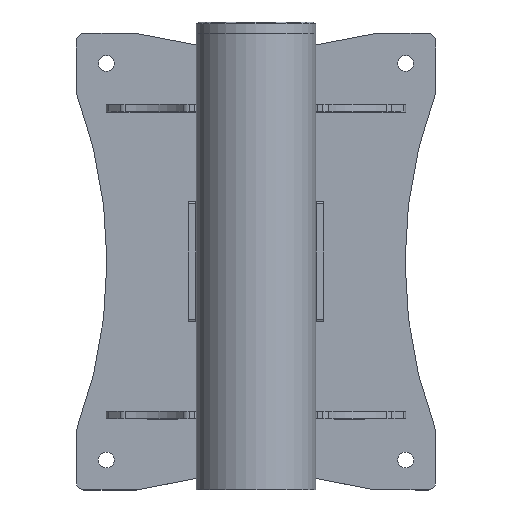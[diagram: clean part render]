
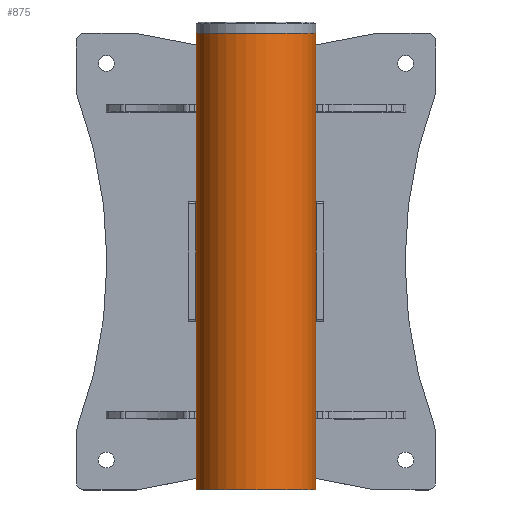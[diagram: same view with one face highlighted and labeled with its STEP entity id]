
A CAD part, top view. The second image highlights one B-rep face of the part: STEP entity #875.
In plain terms, the highlighted cylindrical face has radius 50.8 mm (diameter 101.6 mm), a partial arc.
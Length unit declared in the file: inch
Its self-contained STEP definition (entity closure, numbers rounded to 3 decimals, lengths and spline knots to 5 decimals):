
#93 = DIRECTION ( 'NONE',  ( 0., 0., -1. ) ) ;
#482 = EDGE_CURVE ( 'NONE', #3247, #6538, #2554, .T. ) ;
#755 = CARTESIAN_POINT ( 'NONE',  ( -2., 0., 15.25 ) ) ;
#875 = ADVANCED_FACE ( 'NONE', ( #6438 ), #3833, .T. ) ;
#1053 = CARTESIAN_POINT ( 'NONE',  ( 0., 0., 15.25 ) ) ;
#1061 = CARTESIAN_POINT ( 'NONE',  ( -2., 0., 15.25 ) ) ;
#1146 = AXIS2_PLACEMENT_3D ( 'NONE', #1053, #3740, #3216 ) ;
#1268 = CARTESIAN_POINT ( 'NONE',  ( 2., 0., 15.25 ) ) ;
#1417 = AXIS2_PLACEMENT_3D ( 'NONE', #2648, #4700, #2097 ) ;
#1920 = AXIS2_PLACEMENT_3D ( 'NONE', #2296, #6362, #5899 ) ;
#2097 = DIRECTION ( 'NONE',  ( 1., 0., 0. ) ) ;
#2157 = VERTEX_POINT ( 'NONE', #2397 ) ;
#2256 = LINE ( 'NONE', #1061, #3489 ) ;
#2296 = CARTESIAN_POINT ( 'NONE',  ( 0., 0., 15.25 ) ) ;
#2323 = LINE ( 'NONE', #1268, #6399 ) ;
#2397 = CARTESIAN_POINT ( 'NONE',  ( 2., 0., 0. ) ) ;
#2502 = CIRCLE ( 'NONE', #1417, 2. ) ;
#2528 = EDGE_CURVE ( 'NONE', #4838, #2157, #2502, .T. ) ;
#2554 = CIRCLE ( 'NONE', #1146, 2. ) ;
#2648 = CARTESIAN_POINT ( 'NONE',  ( 0., 0., 0. ) ) ;
#2822 = CARTESIAN_POINT ( 'NONE',  ( -2., 0., 0. ) ) ;
#3216 = DIRECTION ( 'NONE',  ( 1., 0., 0. ) ) ;
#3247 = VERTEX_POINT ( 'NONE', #755 ) ;
#3489 = VECTOR ( 'NONE', #93, 39.37008 ) ;
#3740 = DIRECTION ( 'NONE',  ( 0., 0., 1. ) ) ;
#3833 = CYLINDRICAL_SURFACE ( 'NONE', #1920, 2. ) ;
#4129 = ORIENTED_EDGE ( 'NONE', *, *, #4288, .T. ) ;
#4139 = EDGE_LOOP ( 'NONE', ( #5518, #5497, #4129, #5710 ) ) ;
#4288 = EDGE_CURVE ( 'NONE', #3247, #4838, #2256, .T. ) ;
#4700 = DIRECTION ( 'NONE',  ( 0., 0., 1. ) ) ;
#4838 = VERTEX_POINT ( 'NONE', #2822 ) ;
#4930 = DIRECTION ( 'NONE',  ( 0., 0., -1. ) ) ;
#5397 = EDGE_CURVE ( 'NONE', #6538, #2157, #2323, .T. ) ;
#5497 = ORIENTED_EDGE ( 'NONE', *, *, #482, .F. ) ;
#5518 = ORIENTED_EDGE ( 'NONE', *, *, #5397, .F. ) ;
#5710 = ORIENTED_EDGE ( 'NONE', *, *, #2528, .T. ) ;
#5899 = DIRECTION ( 'NONE',  ( -1., 0., 0. ) ) ;
#6317 = CARTESIAN_POINT ( 'NONE',  ( 2., 0., 15.25 ) ) ;
#6362 = DIRECTION ( 'NONE',  ( 0., 0., -1. ) ) ;
#6399 = VECTOR ( 'NONE', #4930, 39.37008 ) ;
#6438 = FACE_OUTER_BOUND ( 'NONE', #4139, .T. ) ;
#6538 = VERTEX_POINT ( 'NONE', #6317 ) ;
